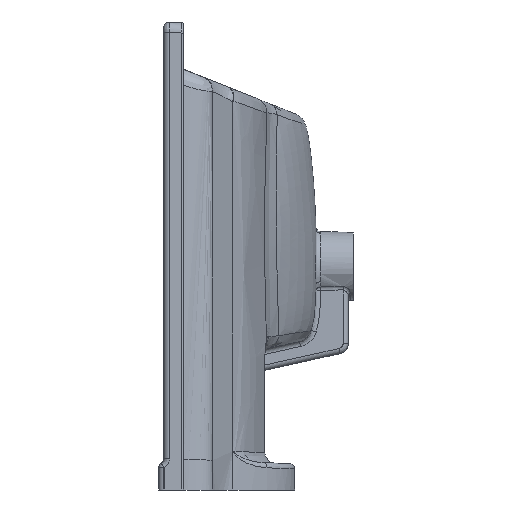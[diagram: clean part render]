
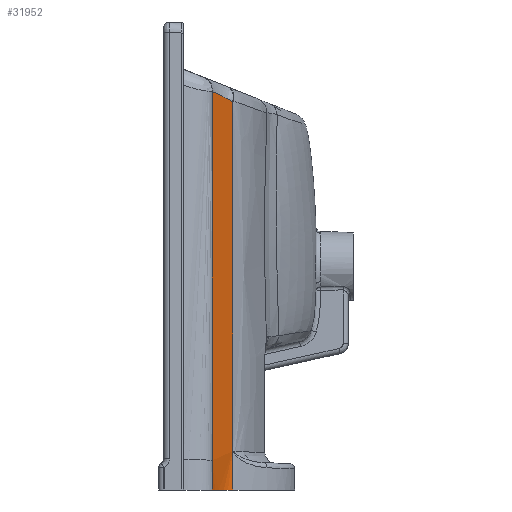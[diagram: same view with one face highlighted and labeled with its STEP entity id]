
A CAD part, left-side view. The second image highlights one B-rep face of the part: STEP entity #31952.
In plain terms, the highlighted free-form (B-spline) face has degree [3, 1] with [4, 2] control points.
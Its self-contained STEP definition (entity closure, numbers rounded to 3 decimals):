
#301 = CARTESIAN_POINT ( 'NONE',  ( -275.728, -56.794, -225. ) ) ;
#535 = EDGE_CURVE ( 'NONE', #9694, #12853, #43423, .T. ) ;
#1000 = CARTESIAN_POINT ( 'NONE',  ( -267.444, -66.221, 160.143 ) ) ;
#2300 = CARTESIAN_POINT ( 'NONE',  ( -291.545, -49.519, -225. ) ) ;
#3906 = B_SPLINE_SURFACE_WITH_KNOTS ( 'NONE', 3, 1, ( 
 ( #1000, #61334 ),
 ( #15857, #301 ),
 ( #55220, #22365 ),
 ( #33894, #44374 ) ),
 .UNSPECIFIED., .F., .F., .F.,
 ( 4, 4 ),
 ( 2, 2 ),
 ( 0., 1. ),
 ( 0., 1. ),
 .UNSPECIFIED. ) ;
#5133 = DIRECTION ( 'NONE',  ( 0., 0., -1. ) ) ;
#7568 = CARTESIAN_POINT ( 'NONE',  ( -274.831, -59.629, 151.693 ) ) ;
#8086 = DIRECTION ( 'NONE',  ( 0., 0., -1. ) ) ;
#8281 = CARTESIAN_POINT ( 'NONE',  ( -274.855, -59.612, 151.701 ) ) ;
#8992 = CARTESIAN_POINT ( 'NONE',  ( -291.716, -50.43, 156.076 ) ) ;
#9694 = VERTEX_POINT ( 'NONE', #71249 ) ;
#12853 = VERTEX_POINT ( 'NONE', #15762 ) ;
#13704 = CARTESIAN_POINT ( 'NONE',  ( -281.671, -55.264, 153.815 ) ) ;
#14424 = CARTESIAN_POINT ( 'NONE',  ( -293.077, -49.889, 156.327 ) ) ;
#14651 = CARTESIAN_POINT ( 'NONE',  ( -303.084, -46.682, -225. ) ) ;
#15125 = CARTESIAN_POINT ( 'NONE',  ( -285.176, -53.381, 154.703 ) ) ;
#15485 = CARTESIAN_POINT ( 'NONE',  ( -292.929, -49.947, 156.3 ) ) ;
#15576 = VECTOR ( 'NONE', #5133, 1000. ) ;
#15762 = CARTESIAN_POINT ( 'NONE',  ( -267.444, -66.221, -225. ) ) ;
#15857 = CARTESIAN_POINT ( 'NONE',  ( -275.728, -56.794, 160.143 ) ) ;
#18430 = CARTESIAN_POINT ( 'NONE',  ( -271.346, -62.374, 150.287 ) ) ;
#19494 = CARTESIAN_POINT ( 'NONE',  ( -293.052, -49.899, 156.323 ) ) ;
#19855 = CARTESIAN_POINT ( 'NONE',  ( -289.133, -51.526, 155.567 ) ) ;
#20774 = ORIENTED_EDGE ( 'NONE', *, *, #46951, .T. ) ;
#22365 = CARTESIAN_POINT ( 'NONE',  ( -291.545, -49.519, -225. ) ) ;
#22653 = LINE ( 'NONE', #33479, #48800 ) ;
#23492 = LINE ( 'NONE', #61763, #43801 ) ;
#23506 = CARTESIAN_POINT ( 'NONE',  ( -276.187, -58.645, 152.185 ) ) ;
#24022 = CARTESIAN_POINT ( 'NONE',  ( -275.728, -56.794, -225. ) ) ;
#24216 = CARTESIAN_POINT ( 'NONE',  ( -274.218, -60.08, 151.466 ) ) ;
#24471 = EDGE_CURVE ( 'NONE', #12853, #71365, #36426, .T. ) ;
#24555 = EDGE_CURVE ( 'NONE', #53658, #9694, #24734, .T. ) ;
#24577 = CARTESIAN_POINT ( 'NONE',  ( -273.396, -60.705, 151.15 ) ) ;
#24734 = LINE ( 'NONE', #56875, #33056 ) ;
#25282 = CARTESIAN_POINT ( 'NONE',  ( -289.928, -51.178, 155.728 ) ) ;
#26343 = CARTESIAN_POINT ( 'NONE',  ( -286.754, -52.608, 155.063 ) ) ;
#30020 = CARTESIAN_POINT ( 'NONE',  ( -267.444, -66.221, 148.164 ) ) ;
#30136 = CARTESIAN_POINT ( 'NONE',  ( -303.084, -46.682, -225. ) ) ;
#30692 = CARTESIAN_POINT ( 'NONE',  ( -283.579, -54.224, 154.306 ) ) ;
#31031 = CARTESIAN_POINT ( 'NONE',  ( -293.088, -49.885, 156.329 ) ) ;
#31239 = VERTEX_POINT ( 'NONE', #65047 ) ;
#31952 = ADVANCED_FACE ( 'NONE', ( #33187 ), #3906, .T. ) ;
#32905 = DIRECTION ( 'NONE',  ( 0., 0., -1. ) ) ;
#33056 = VECTOR ( 'NONE', #8086, 1000. ) ;
#33187 = FACE_OUTER_BOUND ( 'NONE', #61501, .T. ) ;
#33479 = CARTESIAN_POINT ( 'NONE',  ( -303.084, -46.682, -195. ) ) ;
#33894 = CARTESIAN_POINT ( 'NONE',  ( -303.084, -46.682, 160.143 ) ) ;
#35034 = CARTESIAN_POINT ( 'NONE',  ( -274.546, -59.837, 151.588 ) ) ;
#35760 = CARTESIAN_POINT ( 'NONE',  ( -303.084, -46.682, -196.556 ) ) ;
#35805 = ORIENTED_EDGE ( 'NONE', *, *, #24471, .F. ) ;
#36426 = B_SPLINE_CURVE_WITH_KNOTS ( 'NONE', 3,
 ( #52163, #24022, #2300, #30136 ),
 .UNSPECIFIED., .F., .F.,
 ( 4, 4 ),
 ( 0., 1. ),
 .UNSPECIFIED. ) ;
#36456 = CARTESIAN_POINT ( 'NONE',  ( -283.528, -54.251, 154.293 ) ) ;
#38363 = CARTESIAN_POINT ( 'NONE',  ( -267.444, -66.221, -195. ) ) ;
#39744 = CARTESIAN_POINT ( 'NONE',  ( -273.942, -60.288, 151.361 ) ) ;
#39786 = ORIENTED_EDGE ( 'NONE', *, *, #69900, .T. ) ;
#40098 = CARTESIAN_POINT ( 'NONE',  ( -282.642, -54.727, 154.069 ) ) ;
#41168 = CARTESIAN_POINT ( 'NONE',  ( -280.524, -55.918, 153.504 ) ) ;
#41521 = CARTESIAN_POINT ( 'NONE',  ( -296.631, -48.506, 156.97 ) ) ;
#41876 = CARTESIAN_POINT ( 'NONE',  ( -300.029, -47.433, 157.475 ) ) ;
#42578 = CARTESIAN_POINT ( 'NONE',  ( -292.409, -50.152, 156.205 ) ) ;
#42789 = ORIENTED_EDGE ( 'NONE', *, *, #48656, .T. ) ;
#43423 = LINE ( 'NONE', #38363, #15576 ) ;
#43801 = VECTOR ( 'NONE', #32905, 1000. ) ;
#44374 = CARTESIAN_POINT ( 'NONE',  ( -303.084, -46.682, -225. ) ) ;
#45513 = CARTESIAN_POINT ( 'NONE',  ( -282.057, -55.048, 153.917 ) ) ;
#46582 = CARTESIAN_POINT ( 'NONE',  ( -274.712, -59.716, 151.649 ) ) ;
#46951 = EDGE_CURVE ( 'NONE', #53658, #31239, #50568, .T. ) ;
#47249 = ORIENTED_EDGE ( 'NONE', *, *, #535, .F. ) ;
#48347 = CARTESIAN_POINT ( 'NONE',  ( -283.429, -54.303, 154.269 ) ) ;
#48656 = EDGE_CURVE ( 'NONE', #31239, #66432, #23492, .T. ) ;
#48800 = VECTOR ( 'NONE', #50091, 1000. ) ;
#50091 = DIRECTION ( 'NONE',  ( 0., 0., -1. ) ) ;
#50568 = B_SPLINE_CURVE_WITH_KNOTS ( 'NONE', 3,
 ( #50940, #67903, #63189, #18430, #67194, #52000, #24577, #39744, #24216, #35034, #46582, #57074, #7568, #8281, #56366, #23506, #68618, #51647, #41168, #13704, #45513, #40098, #62126, #58500, #48347, #36456, #30692, #15125, #26343, #19855, #25282, #63548, #8992, #42578, #53780, #15485, #70037, #19494, #14424, #31031, #41521, #41876, #53422 ),
 .UNSPECIFIED., .F., .F.,
 ( 4, 2, 2, 2, 1, 1, 1, 1, 2, 2, 2, 2, 2, 1, 1, 2, 2, 2, 2, 1, 1, 1, 1, 1, 2, 2, 4 ),
 ( 0., 0.125, 0.187, 0.219, 0.234, 0.242, 0.246, 0.248, 0.249, 0.25, 0.375, 0.437, 0.469, 0.484, 0.492, 0.496, 0.5, 0.625, 0.687, 0.719, 0.734, 0.742, 0.746, 0.748, 0.749, 0.75, 1. ),
 .UNSPECIFIED. ) ;
#50940 = CARTESIAN_POINT ( 'NONE',  ( -267.444, -66.221, 148.164 ) ) ;
#51647 = CARTESIAN_POINT ( 'NONE',  ( -279.775, -56.362, 153.292 ) ) ;
#52000 = CARTESIAN_POINT ( 'NONE',  ( -273.041, -60.983, 151.008 ) ) ;
#52163 = CARTESIAN_POINT ( 'NONE',  ( -267.444, -66.221, -225. ) ) ;
#53422 = CARTESIAN_POINT ( 'NONE',  ( -303.084, -46.682, 157.845 ) ) ;
#53658 = VERTEX_POINT ( 'NONE', #30020 ) ;
#53780 = CARTESIAN_POINT ( 'NONE',  ( -292.756, -50.015, 156.269 ) ) ;
#55220 = CARTESIAN_POINT ( 'NONE',  ( -291.545, -49.519, 160.143 ) ) ;
#56366 = CARTESIAN_POINT ( 'NONE',  ( -274.868, -59.602, 151.706 ) ) ;
#56875 = CARTESIAN_POINT ( 'NONE',  ( -267.444, -66.221, 87.83 ) ) ;
#57074 = CARTESIAN_POINT ( 'NONE',  ( -274.795, -59.655, 151.68 ) ) ;
#58500 = CARTESIAN_POINT ( 'NONE',  ( -283.281, -54.382, 154.232 ) ) ;
#61334 = CARTESIAN_POINT ( 'NONE',  ( -267.444, -66.221, -225. ) ) ;
#61501 = EDGE_LOOP ( 'NONE', ( #70991, #20774, #42789, #39786, #35805, #47249 ) ) ;
#61763 = CARTESIAN_POINT ( 'NONE',  ( -303.084, -46.682, 87.83 ) ) ;
#62126 = CARTESIAN_POINT ( 'NONE',  ( -282.936, -54.567, 154.144 ) ) ;
#63189 = CARTESIAN_POINT ( 'NONE',  ( -269.488, -64.037, 149.401 ) ) ;
#63548 = CARTESIAN_POINT ( 'NONE',  ( -291.12, -50.676, 155.961 ) ) ;
#65047 = CARTESIAN_POINT ( 'NONE',  ( -303.084, -46.682, 157.845 ) ) ;
#66432 = VERTEX_POINT ( 'NONE', #35760 ) ;
#67194 = CARTESIAN_POINT ( 'NONE',  ( -272.002, -61.817, 150.578 ) ) ;
#67903 = CARTESIAN_POINT ( 'NONE',  ( -268.395, -65.139, 148.791 ) ) ;
#68618 = CARTESIAN_POINT ( 'NONE',  ( -277.579, -57.715, 152.64 ) ) ;
#69900 = EDGE_CURVE ( 'NONE', #66432, #71365, #22653, .T. ) ;
#70037 = CARTESIAN_POINT ( 'NONE',  ( -293.015, -49.913, 156.316 ) ) ;
#70991 = ORIENTED_EDGE ( 'NONE', *, *, #24555, .F. ) ;
#71249 = CARTESIAN_POINT ( 'NONE',  ( -267.444, -66.221, -187.683 ) ) ;
#71365 = VERTEX_POINT ( 'NONE', #14651 ) ;
